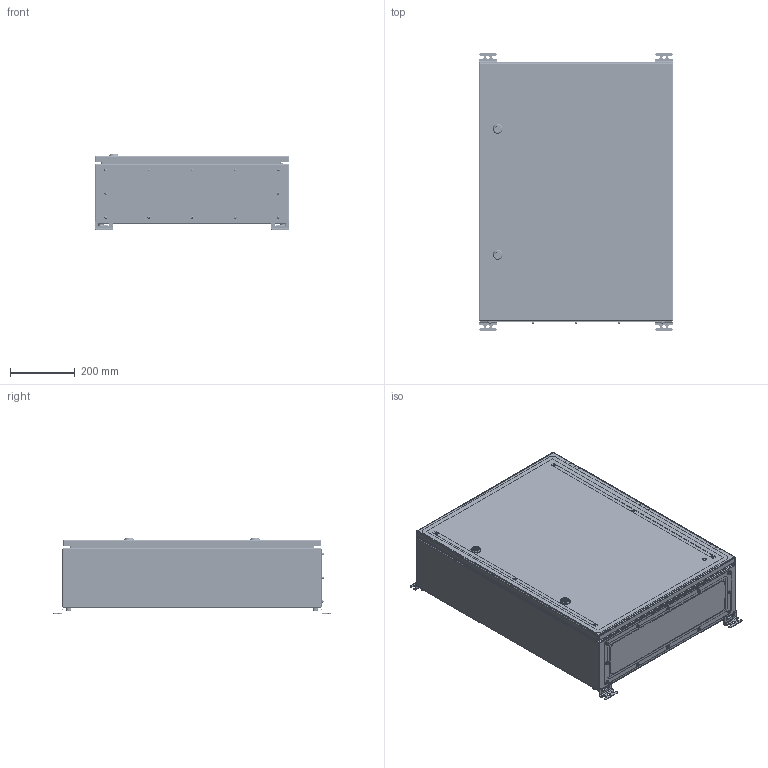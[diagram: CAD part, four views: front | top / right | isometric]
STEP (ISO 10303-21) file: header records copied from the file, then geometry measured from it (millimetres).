
FILE_DESCRIPTION(('STEP AP242'), '1');
FILE_NAME('400 ﾙﾌﾏ-1 (IP-56)', '', ('UNSPECIFIED'), ('UNSPECIFIED'), 'C3D Converter', 'C3D Toolkit', '');
FILE_SCHEMA(('AP242_MANAGED_MODEL_BASED_3D_ENGINEERING_MIM_LF { 1 0 10303 442 1 1 4 }'));
Length unit declared in the file: millimetre
Products named in the file (41): ЩМП-1-Л СБ; 410-Л; 420; 421; 411; 430-Л; 431-Л; 490; 491; 401; 440; 441; 402; 403
Assembly tree (147 placements, depth 4):
  ЩМП-1-Л СБ
    410-Л
      420
        421
        (unnamed)  x6
        (unnamed)
      411
      430-Л
        431-Л
        (unnamed)  x12
    490  x2
      491
      (unnamed)
      (unnamed)
      (unnamed)
      (unnamed)
      (unnamed)
    490  x2
      491
      (unnamed)
      (unnamed)
      (unnamed)
      (unnamed)
      (unnamed)
    401
    (unnamed)  x6
    (unnamed)  x6
    (unnamed)  x6
    (unnamed)  x3
      (unnamed)
      (unnamed)
      (unnamed)
    (unnamed)  x18
    440
      441
      (unnamed)
      (unnamed)  x6
      (unnamed)  x3
    402  x2
    (unnamed)  x6
    (unnamed)  x6
    (unnamed)  x2
      (unnamed)
      (unnamed)
      (unnamed)
      (unnamed)
      (unnamed)
    (unnamed)  x2
    403
    (unnamed)  x12
    (unnamed)  x12
Bounding box: 600 x 856 x 233.1 mm (x, y, z)
Volume: 3860552.2 mm3; surface area: 4595131.4 mm2
Topology: 162 solids, 162 shells, 3074 faces, 7246 edges, 4606 vertices
Faces by surface type: plane 1746, cylinder 884, cone 282, extrusion 54, sphere 42, torus 34, bspline 32
Full cylindrical faces by diameter (mm): 0.5 x6, 2.6 x8, 3.5 x104, 4.134 x12, 4.2 x6, 4.917 x6, 5 x20, 5.5 x18, 5.8 x2, 6 x34, 6.38 x12, 6.4 x18, 6.647 x10, 7 x9, 7.3 x6, 7.5 x9, 7.74 x12, 8 x13, 8.4 x10, 8.5 x30, 8.7 x12, 9 x8, 10 x24, 10.4 x2, 10.5 x6, 11 x12, 11.4 x1, 11.5 x6, 12 x2, 12.3 x4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
Entity records: 69336 total; most frequent: CARTESIAN_POINT 35177, DIRECTION 5580, ORIENTED_EDGE 5204, EDGE_CURVE 2602, AXIS2_PLACEMENT_3D 2078, VERTEX_POINT 1762, EDGE_LOOP 1610, VECTOR 1424
